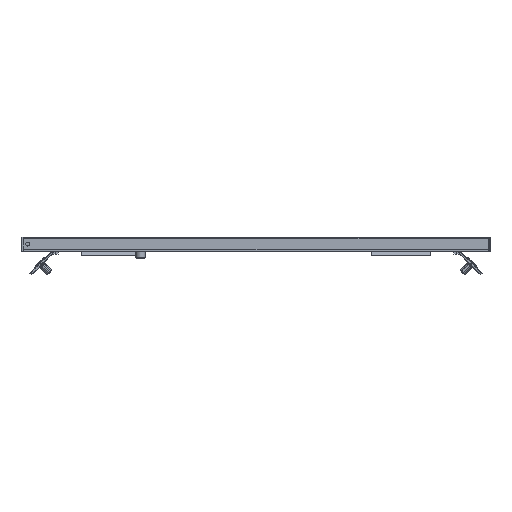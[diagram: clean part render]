
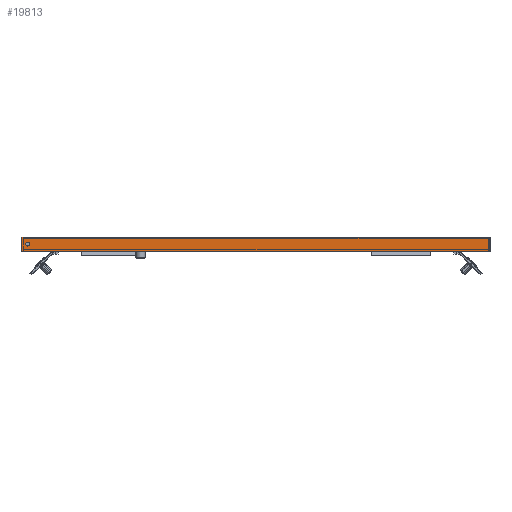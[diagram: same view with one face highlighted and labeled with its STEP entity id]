
A CAD part, front view. The second image highlights one B-rep face of the part: STEP entity #19813.
In plain terms, the highlighted planar face has unit normal (0, -1, 0).
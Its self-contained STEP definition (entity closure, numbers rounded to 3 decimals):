
#1730 = AXIS2_PLACEMENT_3D ( 'NONE', #17563, #7470, #27233 ) ;
#2406 = VERTEX_POINT ( 'NONE', #17303 ) ;
#2846 = ORIENTED_EDGE ( 'NONE', *, *, #8917, .F. ) ;
#3349 = VERTEX_POINT ( 'NONE', #27855 ) ;
#5696 = CARTESIAN_POINT ( 'NONE',  ( 197.5, -1000., 1.4 ) ) ;
#6709 = ORIENTED_EDGE ( 'NONE', *, *, #15081, .T. ) ;
#6716 = CARTESIAN_POINT ( 'NONE',  ( -192.5, -1000., -4.6 ) ) ;
#6798 = DIRECTION ( 'NONE',  ( 0., 0., -1. ) ) ;
#7150 = ORIENTED_EDGE ( 'NONE', *, *, #22704, .F. ) ;
#7168 = CARTESIAN_POINT ( 'NONE',  ( -197.5, -1000., -10.6 ) ) ;
#7436 = VERTEX_POINT ( 'NONE', #29096 ) ;
#7470 = DIRECTION ( 'NONE',  ( 0., 1., 0. ) ) ;
#8856 = EDGE_CURVE ( 'NONE', #34661, #16661, #26991, .T. ) ;
#8917 = EDGE_CURVE ( 'NONE', #2406, #3349, #14210, .T. ) ;
#9844 = AXIS2_PLACEMENT_3D ( 'NONE', #6716, #23231, #36344 ) ;
#11593 = VERTEX_POINT ( 'NONE', #5696 ) ;
#12308 = EDGE_CURVE ( 'NONE', #34661, #11593, #14369, .T. ) ;
#13176 = DIRECTION ( 'NONE',  ( 1., 0., 0. ) ) ;
#14210 = CIRCLE ( 'NONE', #38211, 1.7 ) ;
#14364 = LINE ( 'NONE', #24247, #30431 ) ;
#14369 = LINE ( 'NONE', #20410, #28895 ) ;
#15081 = EDGE_CURVE ( 'NONE', #7436, #11593, #14364, .T. ) ;
#16661 = VERTEX_POINT ( 'NONE', #7168 ) ;
#17303 = CARTESIAN_POINT ( 'NONE',  ( -192.5, -1000., -6.3 ) ) ;
#17563 = CARTESIAN_POINT ( 'NONE',  ( 0., -1000., -8.2 ) ) ;
#19813 = ADVANCED_FACE ( 'NONE', ( #28222, #41546 ), #41337, .F. ) ;
#20045 = EDGE_LOOP ( 'NONE', ( #32532, #6709, #29289, #25684 ) ) ;
#20410 = CARTESIAN_POINT ( 'NONE',  ( 0., -1000., 1.4 ) ) ;
#21386 = DIRECTION ( 'NONE',  ( 0., -1., 0. ) ) ;
#21509 = CIRCLE ( 'NONE', #9844, 1.7 ) ;
#22447 = VECTOR ( 'NONE', #6798, 1000. ) ;
#22704 = EDGE_CURVE ( 'NONE', #3349, #2406, #21509, .T. ) ;
#22824 = LINE ( 'NONE', #35940, #25563 ) ;
#23231 = DIRECTION ( 'NONE',  ( 0., -1., 0. ) ) ;
#23758 = CARTESIAN_POINT ( 'NONE',  ( -197.5, -1000., -8.2 ) ) ;
#24247 = CARTESIAN_POINT ( 'NONE',  ( 197.5, -1000., -8.2 ) ) ;
#25563 = VECTOR ( 'NONE', #13176, 1000. ) ;
#25684 = ORIENTED_EDGE ( 'NONE', *, *, #8856, .T. ) ;
#26991 = LINE ( 'NONE', #23758, #22447 ) ;
#27233 = DIRECTION ( 'NONE',  ( 1., 0., 0. ) ) ;
#27406 = CARTESIAN_POINT ( 'NONE',  ( -192.5, -1000., -4.6 ) ) ;
#27478 = DIRECTION ( 'NONE',  ( 1., 0., 0. ) ) ;
#27855 = CARTESIAN_POINT ( 'NONE',  ( -192.5, -1000., -2.9 ) ) ;
#28222 = FACE_BOUND ( 'NONE', #38138, .T. ) ;
#28895 = VECTOR ( 'NONE', #27478, 1000. ) ;
#29096 = CARTESIAN_POINT ( 'NONE',  ( 197.5, -1000., -10.6 ) ) ;
#29289 = ORIENTED_EDGE ( 'NONE', *, *, #12308, .F. ) ;
#30431 = VECTOR ( 'NONE', #37348, 1000. ) ;
#31255 = DIRECTION ( 'NONE',  ( 0., 0., -1. ) ) ;
#31710 = CARTESIAN_POINT ( 'NONE',  ( -197.5, -1000., 1.4 ) ) ;
#32532 = ORIENTED_EDGE ( 'NONE', *, *, #34530, .T. ) ;
#34530 = EDGE_CURVE ( 'NONE', #16661, #7436, #22824, .T. ) ;
#34661 = VERTEX_POINT ( 'NONE', #31710 ) ;
#35940 = CARTESIAN_POINT ( 'NONE',  ( 0., -1000., -10.6 ) ) ;
#36344 = DIRECTION ( 'NONE',  ( 0., 0., -1. ) ) ;
#37348 = DIRECTION ( 'NONE',  ( 0., 0., 1. ) ) ;
#38138 = EDGE_LOOP ( 'NONE', ( #2846, #7150 ) ) ;
#38211 = AXIS2_PLACEMENT_3D ( 'NONE', #27406, #21386, #31255 ) ;
#41337 = PLANE ( 'NONE',  #1730 ) ;
#41546 = FACE_OUTER_BOUND ( 'NONE', #20045, .T. ) ;
